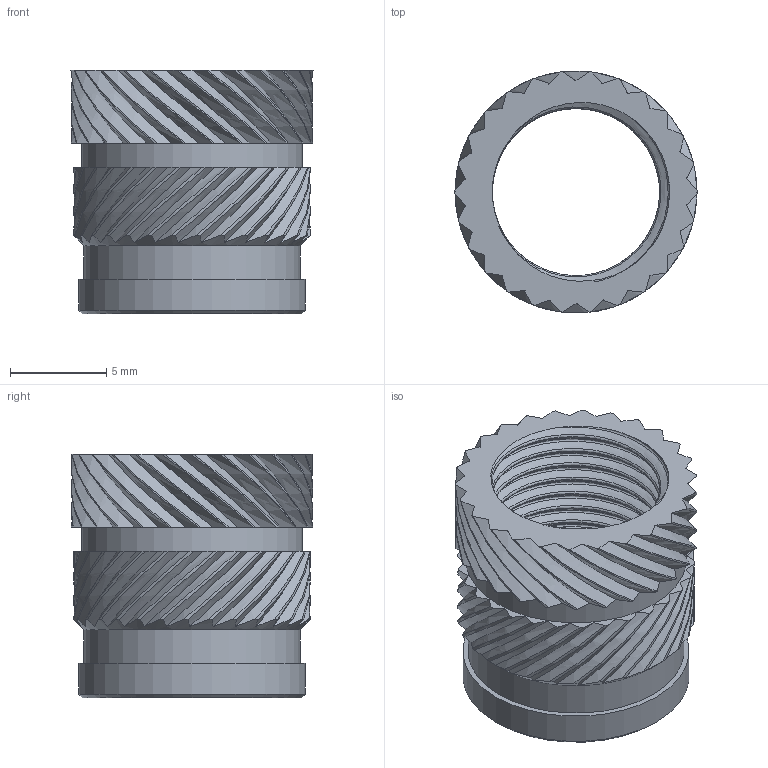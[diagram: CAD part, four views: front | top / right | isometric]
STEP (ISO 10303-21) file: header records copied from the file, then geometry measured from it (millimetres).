
FILE_DESCRIPTION(/* description */ ('','CAx-IF Rec.Pracs.---Representation and Presentation of Product Manufacturing Information (PMI)---4.0---2014-10-13'),/* implementation_level */ '2;1');
FILE_NAME(/* name */ 'G18-28 v2.step',/* time_stamp */ '2025-02-25T11:10:04+01:00',/* author */ (''),/* organization */ (''),/* preprocessor_version */ 'ST-DEVELOPER v20',/* originating_system */ 'Autodesk Translation Framework v13.20.0.188',/* authorisation */ '');
FILE_SCHEMA (('AP242_MANAGED_MODEL_BASED_3D_ENGINEERING_MIM_LF { 1 0 10303 442 1 1 4 }'));
Length unit declared in the file: millimetre
Products named in the file (1): G1/8-28
Bounding box: 12.6 x 12.59 x 12.7 mm (x, y, z)
Volume: 545.5 mm3; surface area: 1323.4 mm2
Topology: 1 solids, 12 shells, 389 faces, 1085 edges, 723 vertices
Faces by surface type: bspline 219, plane 94, cylinder 74, cone 2
Full cylindrical faces by diameter (mm): 9.728 x13, 11.25 x1, 11.5 x1, 11.8 x1
Entity records: 21565 total; most frequent: CARTESIAN_POINT 13345, ORIENTED_EDGE 2170, EDGE_CURVE 1085, DIRECTION 907, VERTEX_POINT 723, B_SPLINE_CURVE_WITH_KNOTS 642, EDGE_LOOP 396, FACE_OUTER_BOUND 389
